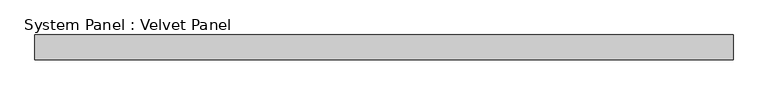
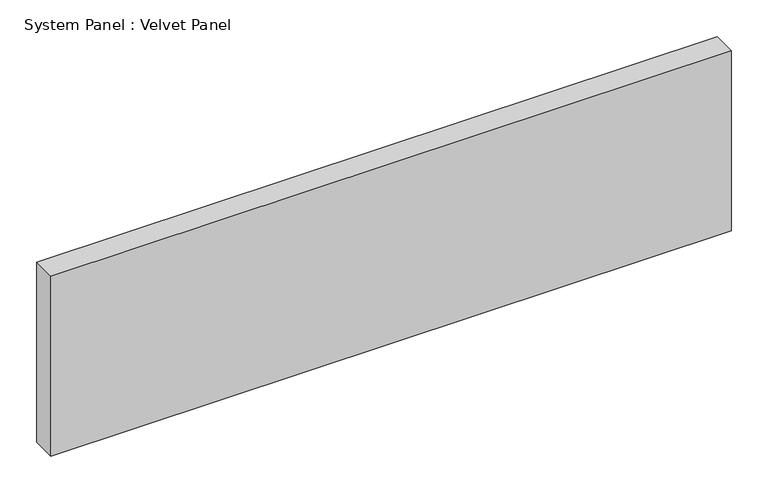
"""IFC4 building model written with IfcOpenShell, lengths in millimetres: plate geometry, System Panel : Velvet Panel."""

from ifc_helpers import new_model, si_unit, origin, origin_with_axes, place, context, project, spatial, polyline, outline, extrude, source, transform, mapped, element, save


def system_panel_velvet_panel_2869b6e6(model_context):
    return source(origin(), model_context, "Body", "SweptSolid", [
        extrude(outline(polyline([(533.4, 0.0), (-533.4, 0.0), (-533.4, 38.1), (533.4, 38.1), (533.4, 0.0)])), origin_with_axes(), (0.0, 0.0, 1.0), 298.45),
    ])


if __name__ == "__main__":
    model = new_model("IFC4")
    model_context = context("Model", 3, world=origin())
    ifc_project = project(units=[si_unit("LENGTHUNIT", "METRE", prefix="MILLI")], contexts=[model_context])
    site = spatial("IfcSite", under=ifc_project)
    building = spatial("IfcBuilding", under=site)
    placement = place(None, origin())
    system_panel_velvet_panel_shape = system_panel_velvet_panel_2869b6e6(model_context)
    element("IfcPlate", 1, ObjectType="System Panel : Velvet Panel", at=placement, inside=building, context=model_context, shape_type="MappedRepresentation", body=[
        mapped(system_panel_velvet_panel_shape, transform((0.0, 0.0, 0.0), x_axis=(1.0, 0.0, 0.0), y_axis=(0.0, 1.0, 0.0), z_axis=(0.0, 0.0, 1.0))),
    ])
    save(model, "model.ifc")
